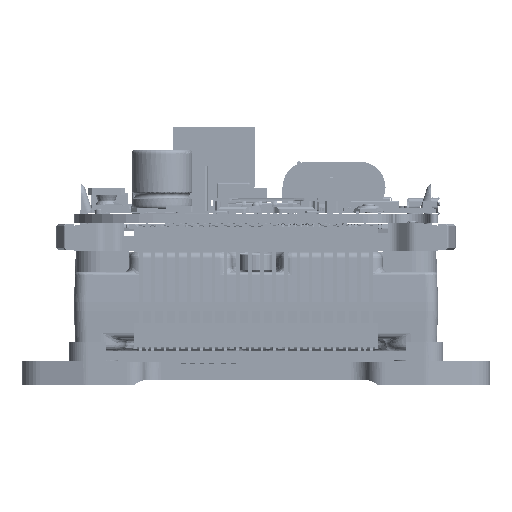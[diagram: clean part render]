
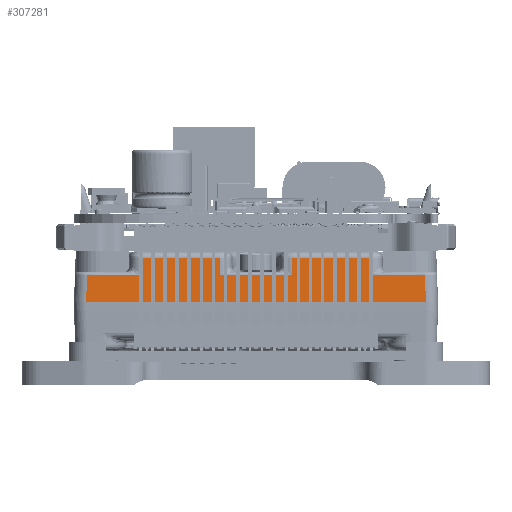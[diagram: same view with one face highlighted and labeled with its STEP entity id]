
A CAD part, left-side view. The second image highlights one B-rep face of the part: STEP entity #307281.
In plain terms, the highlighted planar face has unit normal (-0.999, 0, 0.035).
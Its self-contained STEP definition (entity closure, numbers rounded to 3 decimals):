
#275056 = VERTEX_POINT('',#275057);
#275057 = CARTESIAN_POINT('',(0.251,11.18,
    8.795));
#275158 = VERTEX_POINT('',#275159);
#275159 = CARTESIAN_POINT('',(0.251,24.02,
    8.795));
#275289 = VERTEX_POINT('',#275290);
#275290 = CARTESIAN_POINT('',(0.153,24.118,
    5.977));
#275488 = VERTEX_POINT('',#275489);
#275489 = CARTESIAN_POINT('',(0.251,35.98,
    8.795));
#275544 = VERTEX_POINT('',#275545);
#275545 = CARTESIAN_POINT('',(0.153,35.882,
    5.977));
#275904 = VERTEX_POINT('',#275905);
#275905 = CARTESIAN_POINT('',(0.251,48.82,
    8.795));
#276006 = VERTEX_POINT('',#276007);
#276007 = CARTESIAN_POINT('',(0.153,48.918,
    5.977));
#276116 = VERTEX_POINT('',#276117);
#276117 = CARTESIAN_POINT('',(0.153,11.082,
    5.977));
#291067 = VERTEX_POINT('',#291068);
#291068 = CARTESIAN_POINT('',(0.153,2.152,
    5.977));
#291111 = EDGE_CURVE('',#276116,#275056,#291112,.T.);
#291112 = LINE('',#291113,#291114);
#291113 = CARTESIAN_POINT('',(0.153,11.082,
    5.977));
#291114 = VECTOR('',#291115,1.);
#291115 = DIRECTION('',(0.035,0.035,
    0.999));
#291128 = EDGE_CURVE('',#275056,#275158,#291129,.T.);
#291129 = LINE('',#291130,#291131);
#291130 = CARTESIAN_POINT('',(0.251,0.,8.795));
#291131 = VECTOR('',#291132,1.);
#291132 = DIRECTION('',(0.,1.,-0.));
#291144 = EDGE_CURVE('',#275158,#275289,#291145,.T.);
#291145 = LINE('',#291146,#291147);
#291146 = CARTESIAN_POINT('',(0.251,24.02,
    8.795));
#291147 = VECTOR('',#291148,1.);
#291148 = DIRECTION('',(-0.035,0.035,
    -0.999));
#291164 = EDGE_CURVE('',#275289,#275544,#291165,.T.);
#291165 = LINE('',#291166,#291167);
#291166 = CARTESIAN_POINT('',(0.153,0.,5.977));
#291167 = VECTOR('',#291168,1.);
#291168 = DIRECTION('',(0.,1.,-0.));
#291183 = EDGE_CURVE('',#275544,#275488,#291184,.T.);
#291184 = LINE('',#291185,#291186);
#291185 = CARTESIAN_POINT('',(0.153,35.882,
    5.977));
#291186 = VECTOR('',#291187,1.);
#291187 = DIRECTION('',(0.035,0.035,
    0.999));
#291200 = EDGE_CURVE('',#275488,#275904,#291201,.T.);
#291201 = LINE('',#291202,#291203);
#291202 = CARTESIAN_POINT('',(0.251,0.,8.795));
#291203 = VECTOR('',#291204,1.);
#291204 = DIRECTION('',(0.,1.,-0.));
#291216 = EDGE_CURVE('',#275904,#276006,#291217,.T.);
#291217 = LINE('',#291218,#291219);
#291218 = CARTESIAN_POINT('',(0.251,48.82,
    8.795));
#291219 = VECTOR('',#291220,1.);
#291220 = DIRECTION('',(-0.035,0.035,
    -0.999));
#291234 = VERTEX_POINT('',#291235);
#291235 = CARTESIAN_POINT('',(0.153,57.848,
    5.977));
#291242 = EDGE_CURVE('',#276006,#291234,#291243,.T.);
#291243 = LINE('',#291244,#291245);
#291244 = CARTESIAN_POINT('',(0.153,0.,5.977));
#291245 = VECTOR('',#291246,1.);
#291246 = DIRECTION('',(0.,1.,-0.));
#291257 = EDGE_CURVE('',#291067,#276116,#291258,.T.);
#291258 = LINE('',#291259,#291260);
#291259 = CARTESIAN_POINT('',(0.153,0.,5.977));
#291260 = VECTOR('',#291261,1.);
#291261 = DIRECTION('',(0.,1.,-0.));
#307259 = EDGE_CURVE('',#307260,#291067,#307262,.T.);
#307260 = VERTEX_POINT('',#307261);
#307261 = CARTESIAN_POINT('',(0.,1.999,1.6));
#307262 = LINE('',#307263,#307264);
#307263 = CARTESIAN_POINT('',(0.,1.999,1.6));
#307264 = VECTOR('',#307265,1.);
#307265 = DIRECTION('',(0.035,0.035,
    0.999));
#307281 = ADVANCED_FACE('',(#307282),#307308,.T.);
#307282 = FACE_BOUND('',#307283,.T.);
#307283 = EDGE_LOOP('',(#307284,#307285,#307286,#307287,#307288,#307289,
    #307290,#307291,#307292,#307293,#307294,#307302));
#307284 = ORIENTED_EDGE('',*,*,#307259,.T.);
#307285 = ORIENTED_EDGE('',*,*,#291257,.T.);
#307286 = ORIENTED_EDGE('',*,*,#291111,.T.);
#307287 = ORIENTED_EDGE('',*,*,#291128,.T.);
#307288 = ORIENTED_EDGE('',*,*,#291144,.T.);
#307289 = ORIENTED_EDGE('',*,*,#291164,.T.);
#307290 = ORIENTED_EDGE('',*,*,#291183,.T.);
#307291 = ORIENTED_EDGE('',*,*,#291200,.T.);
#307292 = ORIENTED_EDGE('',*,*,#291216,.T.);
#307293 = ORIENTED_EDGE('',*,*,#291242,.T.);
#307294 = ORIENTED_EDGE('',*,*,#307295,.F.);
#307295 = EDGE_CURVE('',#307296,#291234,#307298,.T.);
#307296 = VERTEX_POINT('',#307297);
#307297 = CARTESIAN_POINT('',(0.,58.001,1.6));
#307298 = LINE('',#307299,#307300);
#307299 = CARTESIAN_POINT('',(0.071,57.931,
    3.621));
#307300 = VECTOR('',#307301,1.);
#307301 = DIRECTION('',(0.035,-0.035,
    0.999));
#307302 = ORIENTED_EDGE('',*,*,#307303,.F.);
#307303 = EDGE_CURVE('',#307260,#307296,#307304,.T.);
#307304 = LINE('',#307305,#307306);
#307305 = CARTESIAN_POINT('',(0.,0.,1.6));
#307306 = VECTOR('',#307307,1.);
#307307 = DIRECTION('',(0.,1.,0.));
#307308 = PLANE('',#307309);
#307309 = AXIS2_PLACEMENT_3D('',#307310,#307311,#307312);
#307310 = CARTESIAN_POINT('',(0.,0.,1.6));
#307311 = DIRECTION('',(-0.999,0.,0.035));
#307312 = DIRECTION('',(0.035,0.,0.999));
